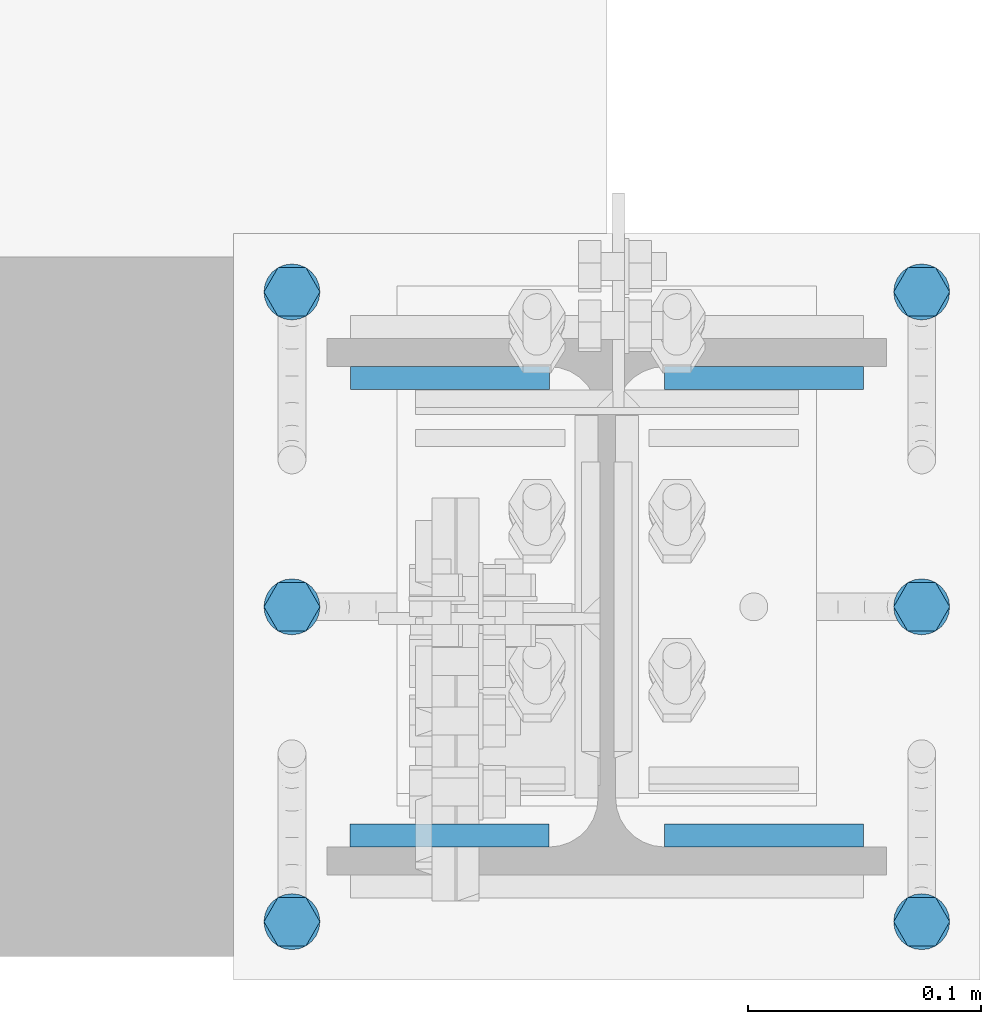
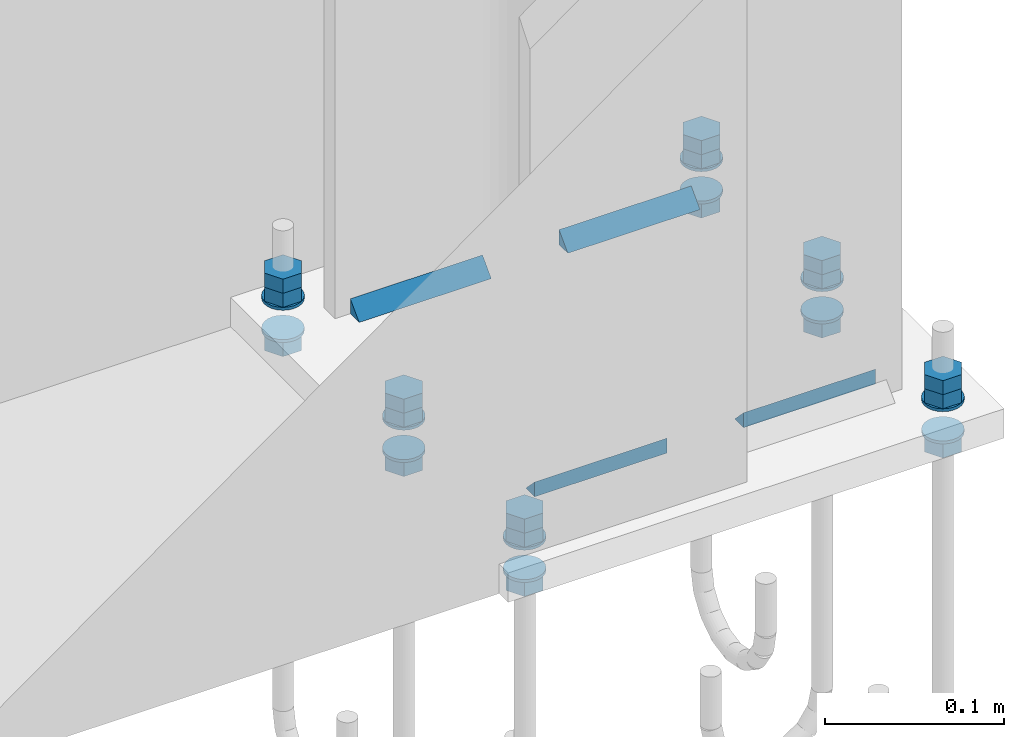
# One storey, part 59 of 72: 30 mechanical fasteners, 8 fasteners.
"""IFC4 building model written with IfcOpenShell, lengths in metres."""

from ifc_helpers import new_model, si_unit, frame, origin_with_axes, place, context, project, spatial, polyline, outline, extrude, type_object, element, save


model = new_model("IFC4")

# Units and contexts
model_context = context("Model", 3, precision=1e-05, world=origin_with_axes())
ifc_project = project(units=[si_unit("LENGTHUNIT", "METRE"), si_unit("AREAUNIT", "SQUARE_METRE"), si_unit("VOLUMEUNIT", "CUBIC_METRE"), si_unit("MASSUNIT", "GRAM", prefix="KILO"), si_unit("TIMEUNIT", "SECOND"), si_unit("PLANEANGLEUNIT", "RADIAN"), si_unit("SOLIDANGLEUNIT", "STERADIAN"), si_unit("THERMODYNAMICTEMPERATUREUNIT", "DEGREE_CELSIUS")], contexts=[model_context])

# Site, building, storey
placement_1 = place(None, origin_with_axes())
site = spatial("IfcSite", under=ifc_project, at=placement_1, Name="Italia", CompositionType="ELEMENT")
building = spatial("IfcBuilding", under=site, at=placement_1, Name="Uffici", CompositionType="ELEMENT")
storey = spatial("IfcBuildingStorey", under=building, at=placement_1, Name="Storey 0", CompositionType="ELEMENT", Elevation=0.0)

# Fasteners
fastener_type_1 = type_object("IfcFastenerType", Name="Collegamenti 0001_0101 0002_0102 0003_0103 0004_0104 0005_0105 0011_0111 0012_0112 0013_0113 0014_0114 0015_0115", PredefinedType="WELD")
placement_2 = place(placement_1, origin_with_axes())
fastener_1_placement = place(placement_2, origin_with_axes())
element("IfcFastener", 1, at=fastener_1_placement, inside=storey, type_object=fastener_type_1, Name="Collegamenti 0001_0101 0002_0102 0003_0103 0004_0104 0005_0105 0011_0111 0012_0112 0013_0113 0014_0114 0015_0115", context=model_context, shape_type="SweptSolid", body=[
    extrude(outline(polyline([(0.0, 0.0), (0.00986816, 0.0101734), (0.00986816, 0.0), (0.0, 0.0)])), frame((13.9947, 0.0931818, 0.01995), z_axis=(1.0, -8.7294403e-08, 0.0), x_axis=(8.7294403e-08, 1.0, 0.0)), (0.0, 0.0, 1.0), 0.08535),
])
fastener_type_2 = type_object("IfcFastenerType", Name="Collegamenti 0001_0101 0002_0102 0003_0103 0004_0104 0005_0105 0011_0111 0012_0112 0013_0113 0014_0114 0015_0115", PredefinedType="WELD")
fastener_2_placement = place(placement_2, origin_with_axes())
element("IfcFastener", 2, at=fastener_2_placement, inside=storey, type_object=fastener_type_2, Name="Collegamenti 0001_0101 0002_0102 0003_0103 0004_0104 0005_0105 0011_0111 0012_0112 0013_0113 0014_0114 0015_0115", context=model_context, shape_type="SweptSolid", body=[
    extrude(outline(polyline([(0.0, 0.0), (0.00986816, 0.0101734), (0.00986816, 0.0), (0.0, 0.0)])), frame((14.0801, -0.0931818, 0.01995), z_axis=(-1.0, 8.7294403e-08, 0.0), x_axis=(-8.7294403e-08, -1.0, 0.0)), (0.0, 0.0, 1.0), 0.08535),
])
fastener_type_3 = type_object("IfcFastenerType", Name="Collegamenti 0001_0101 0002_0102 0003_0103 0004_0104 0005_0105 0011_0111 0012_0112 0013_0113 0014_0114 0015_0115", PredefinedType="WELD")
fastener_3_placement = place(placement_2, origin_with_axes())
element("IfcFastener", 3, at=fastener_3_placement, inside=storey, type_object=fastener_type_3, Name="Collegamenti 0001_0101 0002_0102 0003_0103 0004_0104 0005_0105 0011_0111 0012_0112 0013_0113 0014_0114 0015_0115", context=model_context, shape_type="SweptSolid", body=[
    extrude(outline(polyline([(0.0, 0.0), (0.00986816, 0.0101734), (0.00986816, 0.0), (0.0, 0.0)])), frame((13.9453, -0.0931818, 0.01995), z_axis=(-1.0, 8.7294403e-08, 0.0), x_axis=(-8.7294403e-08, -1.0, 0.0)), (0.0, 0.0, 1.0), 0.08535),
])
fastener_type_4 = type_object("IfcFastenerType", Name="Collegamenti 0001_0101 0002_0102 0003_0103 0004_0104 0005_0105 0011_0111 0012_0112 0013_0113 0014_0114 0015_0115", PredefinedType="WELD")
fastener_4_placement = place(placement_2, origin_with_axes())
element("IfcFastener", 4, at=fastener_4_placement, inside=storey, type_object=fastener_type_4, Name="Collegamenti 0001_0101 0002_0102 0003_0103 0004_0104 0005_0105 0011_0111 0012_0112 0013_0113 0014_0114 0015_0115", context=model_context, shape_type="SweptSolid", body=[
    extrude(outline(polyline([(0.0, 0.0), (0.00986816, 0.0101734), (0.00986816, 0.0), (0.0, 0.0)])), frame((13.86, 0.0931819, 0.01995), z_axis=(1.0, -8.7294403e-08, 0.0), x_axis=(8.7294403e-08, 1.0, 0.0)), (0.0, 0.0, 1.0), 0.08535),
])
fastener_type_5 = type_object("IfcFastenerType", Name="Collegamenti 0001_0101 0002_0102 0003_0103 0004_0104 0005_0105 0011_0111 0012_0112 0013_0113 0014_0114 0015_0115", PredefinedType="WELD")
fastener_5_placement = place(placement_2, origin_with_axes())
element("IfcFastener", 5, at=fastener_5_placement, inside=storey, type_object=fastener_type_5, Name="Collegamenti 0001_0101 0002_0102 0003_0103 0004_0104 0005_0105 0011_0111 0012_0112 0013_0113 0014_0114 0015_0115", context=model_context, shape_type="SweptSolid", body=[
    extrude(outline(polyline([(0.0, 0.0), (0.00986816, 0.0101734), (0.00986816, 0.0), (0.0, 0.0)])), frame((13.9947, 0.0931818, 0.01995), z_axis=(1.0, -8.7294403e-08, 0.0), x_axis=(8.7294403e-08, 1.0, 0.0)), (0.0, 0.0, 1.0), 0.08535),
])
fastener_type_6 = type_object("IfcFastenerType", Name="Collegamenti 0001_0101 0002_0102 0003_0103 0004_0104 0005_0105 0011_0111 0012_0112 0013_0113 0014_0114 0015_0115", PredefinedType="WELD")
fastener_6_placement = place(placement_2, origin_with_axes())
element("IfcFastener", 6, at=fastener_6_placement, inside=storey, type_object=fastener_type_6, Name="Collegamenti 0001_0101 0002_0102 0003_0103 0004_0104 0005_0105 0011_0111 0012_0112 0013_0113 0014_0114 0015_0115", context=model_context, shape_type="SweptSolid", body=[
    extrude(outline(polyline([(0.0, 0.0), (0.00986816, 0.0101734), (0.00986816, 0.0), (0.0, 0.0)])), frame((14.0801, -0.0931818, 0.01995), z_axis=(-1.0, 8.7294403e-08, 0.0), x_axis=(-8.7294403e-08, -1.0, 0.0)), (0.0, 0.0, 1.0), 0.08535),
])
fastener_type_7 = type_object("IfcFastenerType", Name="Collegamenti 0001_0101 0002_0102 0003_0103 0004_0104 0005_0105 0011_0111 0012_0112 0013_0113 0014_0114 0015_0115", PredefinedType="WELD")
fastener_7_placement = place(placement_2, origin_with_axes())
element("IfcFastener", 7, at=fastener_7_placement, inside=storey, type_object=fastener_type_7, Name="Collegamenti 0001_0101 0002_0102 0003_0103 0004_0104 0005_0105 0011_0111 0012_0112 0013_0113 0014_0114 0015_0115", context=model_context, shape_type="SweptSolid", body=[
    extrude(outline(polyline([(0.0, 0.0), (0.00986816, 0.0101734), (0.00986816, 0.0), (0.0, 0.0)])), frame((13.9453, -0.0931818, 0.01995), z_axis=(-1.0, 8.7294403e-08, 0.0), x_axis=(-8.7294403e-08, -1.0, 0.0)), (0.0, 0.0, 1.0), 0.08535),
])
fastener_type_8 = type_object("IfcFastenerType", Name="Collegamenti 0001_0101 0002_0102 0003_0103 0004_0104 0005_0105 0011_0111 0012_0112 0013_0113 0014_0114 0015_0115", PredefinedType="WELD")
fastener_8_placement = place(placement_2, origin_with_axes())
element("IfcFastener", 8, at=fastener_8_placement, inside=storey, type_object=fastener_type_8, Name="Collegamenti 0001_0101 0002_0102 0003_0103 0004_0104 0005_0105 0011_0111 0012_0112 0013_0113 0014_0114 0015_0115", context=model_context, shape_type="SweptSolid", body=[
    extrude(outline(polyline([(0.0, 0.0), (0.00986816, 0.0101734), (0.00986816, 0.0), (0.0, 0.0)])), frame((13.86, 0.0931819, 0.01995), z_axis=(1.0, -8.7294403e-08, 0.0), x_axis=(8.7294403e-08, 1.0, 0.0)), (0.0, 0.0, 1.0), 0.08535),
])

# Mechanical fasteners
mechanical_fastener_type_1 = type_object("IfcMechanicalFastenerType", Name="Collegamenti 0001_0101 0002_0102 0003_0103 0004_0104 0005_0105 0011_0111 0012_0112 0013_0113 0014_0114 0015_0115", PredefinedType="BOLT")
mechanical_fastener_1_placement = place(placement_2, origin_with_axes())
element("IfcMechanicalFastener", 9, at=mechanical_fastener_1_placement, inside=storey, type_object=mechanical_fastener_type_1, Name="Collegamenti 0001_0101 0002_0102 0003_0103 0004_0104 0005_0105 0011_0111 0012_0112 0013_0113 0014_0114 0015_0115", NominalDiameter=0.0119998, context=model_context, shape_type="SweptSolid", body=[
    extrude(outline(polyline([(0.0, 0.0), (0.0, 0.0120001), (0.0103923, 0.0180006), (0.0207846, 0.0120001), (0.0207846, 0.0), (0.0103923, -0.00599957), (0.0, 0.0)])), frame((13.841, -0.145392, 0.022), z_axis=(0.0, 0.0, 1.0), x_axis=(0.0, 1.0, 0.0)), (0.0, 0.0, 1.0), 0.0096),
])
mechanical_fastener_type_2 = type_object("IfcMechanicalFastenerType", Name="Collegamenti 0001_0101 0002_0102 0003_0103 0004_0104 0005_0105 0011_0111 0012_0112 0013_0113 0014_0114 0015_0115", PredefinedType="BOLT")
mechanical_fastener_2_placement = place(placement_2, origin_with_axes())
element("IfcMechanicalFastener", 10, at=mechanical_fastener_2_placement, inside=storey, type_object=mechanical_fastener_type_2, Name="Collegamenti 0001_0101 0002_0102 0003_0103 0004_0104 0005_0105 0011_0111 0012_0112 0013_0113 0014_0114 0015_0115", NominalDiameter=0.0119998, context=model_context, shape_type="SweptSolid", body=[
    extrude(outline(polyline([(0.0, 0.0), (0.0, 0.0120001), (0.0103923, 0.0180006), (0.0207846, 0.0120001), (0.0207846, 0.0), (0.0103923, -0.00599957), (0.0, 0.0)])), frame((13.841, -0.145392, 0.0316), z_axis=(0.0, 0.0, 1.0), x_axis=(0.0, 1.0, 0.0)), (0.0, 0.0, 1.0), 0.0096),
])
mechanical_fastener_type_3 = type_object("IfcMechanicalFastenerType", Name="Collegamenti 0001_0101 0002_0102 0003_0103 0004_0104 0005_0105 0011_0111 0012_0112 0013_0113 0014_0114 0015_0115", PredefinedType="BOLT")
mechanical_fastener_3_placement = place(placement_2, origin_with_axes())
element("IfcMechanicalFastener", 11, at=mechanical_fastener_3_placement, inside=storey, type_object=mechanical_fastener_type_3, Name="Collegamenti 0001_0101 0002_0102 0003_0103 0004_0104 0005_0105 0011_0111 0012_0112 0013_0113 0014_0114 0015_0115", NominalDiameter=0.0119998, context=model_context, shape_type="SweptSolid", body=[
    extrude(outline(polyline([(0.0, 0.0), (0.0, 0.0120001), (0.0103923, 0.0180006), (0.0207846, 0.0120001), (0.0207846, 0.0), (0.0103923, -0.00599957), (0.0, 0.0)])), frame((13.841, -0.145392, -0.0116), z_axis=(0.0, 0.0, 1.0), x_axis=(0.0, 1.0, 0.0)), (0.0, 0.0, 1.0), 0.0096),
])
mechanical_fastener_type_4 = type_object("IfcMechanicalFastenerType", Name="Collegamenti 0001_0101 0002_0102 0003_0103 0004_0104 0005_0105 0011_0111 0012_0112 0013_0113 0014_0114 0015_0115", PredefinedType="BOLT")
mechanical_fastener_4_placement = place(placement_2, origin_with_axes())
element("IfcMechanicalFastener", 12, at=mechanical_fastener_4_placement, inside=storey, type_object=mechanical_fastener_type_4, Name="Collegamenti 0001_0101 0002_0102 0003_0103 0004_0104 0005_0105 0011_0111 0012_0112 0013_0113 0014_0114 0015_0115", NominalDiameter=0.024, context=model_context, shape_type="SweptSolid", body=[
    extrude(outline(polyline([(0.0, 0.0), (-0.000408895, -0.00310612), (-0.00160769, -0.00599957), (-0.00351471, -0.00848484), (-0.006, -0.0103922), (-0.00889417, -0.011591), (-0.012, -0.0120001), (-0.0151058, -0.011591), (-0.018, -0.0103922), (-0.0204853, -0.00848484), (-0.0223923, -0.00599957), (-0.0235911, -0.00310612), (-0.024, 0.0), (-0.0235911, 0.00310612), (-0.0223923, 0.00599957), (-0.0204853, 0.00848484), (-0.018, 0.0103922), (-0.0151058, 0.011591), (-0.012, 0.0120001), (-0.00889417, 0.011591), (-0.006, 0.0103922), (-0.00351471, 0.00848484), (-0.00160769, 0.00599957), (-0.000408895, 0.00310612), (0.0, 0.0)])), frame((13.835, -0.123, 0.02), z_axis=(0.0, 0.0, 1.0), x_axis=(0.0, 1.0, 0.0)), (0.0, 0.0, 1.0), 0.002),
])
mechanical_fastener_type_5 = type_object("IfcMechanicalFastenerType", Name="Collegamenti 0001_0101 0002_0102 0003_0103 0004_0104 0005_0105 0011_0111 0012_0112 0013_0113 0014_0114 0015_0115", PredefinedType="BOLT")
mechanical_fastener_5_placement = place(placement_2, origin_with_axes())
element("IfcMechanicalFastener", 13, at=mechanical_fastener_5_placement, inside=storey, type_object=mechanical_fastener_type_5, Name="Collegamenti 0001_0101 0002_0102 0003_0103 0004_0104 0005_0105 0011_0111 0012_0112 0013_0113 0014_0114 0015_0115", NominalDiameter=0.024, context=model_context, shape_type="SweptSolid", body=[
    extrude(outline(polyline([(0.0, 0.0), (-0.000408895, -0.00310612), (-0.00160769, -0.00599957), (-0.00351471, -0.00848484), (-0.006, -0.0103922), (-0.00889417, -0.011591), (-0.012, -0.0120001), (-0.0151058, -0.011591), (-0.018, -0.0103922), (-0.0204853, -0.00848484), (-0.0223923, -0.00599957), (-0.0235911, -0.00310612), (-0.024, 0.0), (-0.0235911, 0.00310612), (-0.0223923, 0.00599957), (-0.0204853, 0.00848484), (-0.018, 0.0103922), (-0.0151058, 0.011591), (-0.012, 0.0120001), (-0.00889417, 0.011591), (-0.006, 0.0103922), (-0.00351471, 0.00848484), (-0.00160769, 0.00599957), (-0.000408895, 0.00310612), (0.0, 0.0)])), frame((13.835, -0.123, -0.002), z_axis=(0.0, 0.0, 1.0), x_axis=(0.0, 1.0, 0.0)), (0.0, 0.0, 1.0), 0.002),
])
mechanical_fastener_type_6 = type_object("IfcMechanicalFastenerType", Name="Collegamenti 0001_0101 0002_0102 0003_0103 0004_0104 0005_0105 0011_0111 0012_0112 0013_0113 0014_0114 0015_0115", PredefinedType="BOLT")
mechanical_fastener_6_placement = place(placement_2, origin_with_axes())
element("IfcMechanicalFastener", 14, at=mechanical_fastener_6_placement, inside=storey, type_object=mechanical_fastener_type_6, Name="Collegamenti 0001_0101 0002_0102 0003_0103 0004_0104 0005_0105 0011_0111 0012_0112 0013_0113 0014_0114 0015_0115", NominalDiameter=0.0119998, context=model_context, shape_type="SweptSolid", body=[
    extrude(outline(polyline([(0.0, 0.0), (0.0, 0.0120001), (0.0103923, 0.0179996), (0.0207846, 0.0120001), (0.0207846, 0.0), (0.0103923, -0.00600052), (0.0, 0.0)])), frame((14.111, -0.145392, 0.022), z_axis=(0.0, 0.0, 1.0), x_axis=(0.0, 1.0, 0.0)), (0.0, 0.0, 1.0), 0.0096),
])
mechanical_fastener_type_7 = type_object("IfcMechanicalFastenerType", Name="Collegamenti 0001_0101 0002_0102 0003_0103 0004_0104 0005_0105 0011_0111 0012_0112 0013_0113 0014_0114 0015_0115", PredefinedType="BOLT")
mechanical_fastener_7_placement = place(placement_2, origin_with_axes())
element("IfcMechanicalFastener", 15, at=mechanical_fastener_7_placement, inside=storey, type_object=mechanical_fastener_type_7, Name="Collegamenti 0001_0101 0002_0102 0003_0103 0004_0104 0005_0105 0011_0111 0012_0112 0013_0113 0014_0114 0015_0115", NominalDiameter=0.0119998, context=model_context, shape_type="SweptSolid", body=[
    extrude(outline(polyline([(0.0, 0.0), (0.0, 0.0120001), (0.0103923, 0.0179996), (0.0207846, 0.0120001), (0.0207846, 0.0), (0.0103923, -0.00600052), (0.0, 0.0)])), frame((14.111, -0.145392, 0.0316), z_axis=(0.0, 0.0, 1.0), x_axis=(0.0, 1.0, 0.0)), (0.0, 0.0, 1.0), 0.0096),
])
mechanical_fastener_type_8 = type_object("IfcMechanicalFastenerType", Name="Collegamenti 0001_0101 0002_0102 0003_0103 0004_0104 0005_0105 0011_0111 0012_0112 0013_0113 0014_0114 0015_0115", PredefinedType="BOLT")
mechanical_fastener_8_placement = place(placement_2, origin_with_axes())
element("IfcMechanicalFastener", 16, at=mechanical_fastener_8_placement, inside=storey, type_object=mechanical_fastener_type_8, Name="Collegamenti 0001_0101 0002_0102 0003_0103 0004_0104 0005_0105 0011_0111 0012_0112 0013_0113 0014_0114 0015_0115", NominalDiameter=0.0119998, context=model_context, shape_type="SweptSolid", body=[
    extrude(outline(polyline([(0.0, 0.0), (0.0, 0.0120001), (0.0103923, 0.0179996), (0.0207846, 0.0120001), (0.0207846, 0.0), (0.0103923, -0.00600052), (0.0, 0.0)])), frame((14.111, -0.145392, -0.0116), z_axis=(0.0, 0.0, 1.0), x_axis=(0.0, 1.0, 0.0)), (0.0, 0.0, 1.0), 0.0096),
])
mechanical_fastener_type_9 = type_object("IfcMechanicalFastenerType", Name="Collegamenti 0001_0101 0002_0102 0003_0103 0004_0104 0005_0105 0011_0111 0012_0112 0013_0113 0014_0114 0015_0115", PredefinedType="BOLT")
mechanical_fastener_9_placement = place(placement_2, origin_with_axes())
element("IfcMechanicalFastener", 17, at=mechanical_fastener_9_placement, inside=storey, type_object=mechanical_fastener_type_9, Name="Collegamenti 0001_0101 0002_0102 0003_0103 0004_0104 0005_0105 0011_0111 0012_0112 0013_0113 0014_0114 0015_0115", NominalDiameter=0.024, context=model_context, shape_type="SweptSolid", body=[
    extrude(outline(polyline([(0.0, 0.0), (-0.000408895, -0.00310612), (-0.00160769, -0.00599957), (-0.00351471, -0.00848484), (-0.006, -0.0103922), (-0.00889417, -0.011591), (-0.012, -0.0120001), (-0.0151058, -0.011591), (-0.018, -0.0103922), (-0.0204853, -0.00848484), (-0.0223923, -0.00599957), (-0.0235911, -0.00310612), (-0.024, 0.0), (-0.0235911, 0.00310612), (-0.0223923, 0.00599957), (-0.0204853, 0.00848484), (-0.018, 0.0103922), (-0.0151058, 0.011591), (-0.012, 0.0120001), (-0.00889417, 0.011591), (-0.006, 0.0103922), (-0.00351471, 0.00848484), (-0.00160769, 0.00599957), (-0.000408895, 0.00310612), (0.0, 0.0)])), frame((14.105, -0.123, 0.02), z_axis=(0.0, 0.0, 1.0), x_axis=(0.0, 1.0, 0.0)), (0.0, 0.0, 1.0), 0.002),
])
mechanical_fastener_type_10 = type_object("IfcMechanicalFastenerType", Name="Collegamenti 0001_0101 0002_0102 0003_0103 0004_0104 0005_0105 0011_0111 0012_0112 0013_0113 0014_0114 0015_0115", PredefinedType="BOLT")
mechanical_fastener_10_placement = place(placement_2, origin_with_axes())
element("IfcMechanicalFastener", 18, at=mechanical_fastener_10_placement, inside=storey, type_object=mechanical_fastener_type_10, Name="Collegamenti 0001_0101 0002_0102 0003_0103 0004_0104 0005_0105 0011_0111 0012_0112 0013_0113 0014_0114 0015_0115", NominalDiameter=0.024, context=model_context, shape_type="SweptSolid", body=[
    extrude(outline(polyline([(0.0, 0.0), (-0.000408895, -0.00310612), (-0.00160769, -0.00599957), (-0.00351471, -0.00848484), (-0.006, -0.0103922), (-0.00889417, -0.011591), (-0.012, -0.0120001), (-0.0151058, -0.011591), (-0.018, -0.0103922), (-0.0204853, -0.00848484), (-0.0223923, -0.00599957), (-0.0235911, -0.00310612), (-0.024, 0.0), (-0.0235911, 0.00310612), (-0.0223923, 0.00599957), (-0.0204853, 0.00848484), (-0.018, 0.0103922), (-0.0151058, 0.011591), (-0.012, 0.0120001), (-0.00889417, 0.011591), (-0.006, 0.0103922), (-0.00351471, 0.00848484), (-0.00160769, 0.00599957), (-0.000408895, 0.00310612), (0.0, 0.0)])), frame((14.105, -0.123, -0.002), z_axis=(0.0, 0.0, 1.0), x_axis=(0.0, 1.0, 0.0)), (0.0, 0.0, 1.0), 0.002),
])
mechanical_fastener_type_11 = type_object("IfcMechanicalFastenerType", Name="Collegamenti 0001_0101 0002_0102 0003_0103 0004_0104 0005_0105 0011_0111 0012_0112 0013_0113 0014_0114 0015_0115", PredefinedType="BOLT")
mechanical_fastener_11_placement = place(placement_2, origin_with_axes())
element("IfcMechanicalFastener", 19, at=mechanical_fastener_11_placement, inside=storey, type_object=mechanical_fastener_type_11, Name="Collegamenti 0001_0101 0002_0102 0003_0103 0004_0104 0005_0105 0011_0111 0012_0112 0013_0113 0014_0114 0015_0115", NominalDiameter=0.0119998, context=model_context, shape_type="SweptSolid", body=[
    extrude(outline(polyline([(0.0, 0.0), (0.0, 0.0120001), (0.0103923, 0.0180006), (0.0207846, 0.0120001), (0.0207846, 0.0), (0.0103923, -0.00599957), (0.0, 0.0)])), frame((13.841, -0.0103923, 0.022), z_axis=(0.0, 0.0, 1.0), x_axis=(0.0, 1.0, 0.0)), (0.0, 0.0, 1.0), 0.0096),
])
mechanical_fastener_type_12 = type_object("IfcMechanicalFastenerType", Name="Collegamenti 0001_0101 0002_0102 0003_0103 0004_0104 0005_0105 0011_0111 0012_0112 0013_0113 0014_0114 0015_0115", PredefinedType="BOLT")
mechanical_fastener_12_placement = place(placement_2, origin_with_axes())
element("IfcMechanicalFastener", 20, at=mechanical_fastener_12_placement, inside=storey, type_object=mechanical_fastener_type_12, Name="Collegamenti 0001_0101 0002_0102 0003_0103 0004_0104 0005_0105 0011_0111 0012_0112 0013_0113 0014_0114 0015_0115", NominalDiameter=0.0119998, context=model_context, shape_type="SweptSolid", body=[
    extrude(outline(polyline([(0.0, 0.0), (0.0, 0.0120001), (0.0103923, 0.0180006), (0.0207846, 0.0120001), (0.0207846, 0.0), (0.0103923, -0.00599957), (0.0, 0.0)])), frame((13.841, -0.0103923, 0.0316), z_axis=(0.0, 0.0, 1.0), x_axis=(0.0, 1.0, 0.0)), (0.0, 0.0, 1.0), 0.0096),
])
mechanical_fastener_type_13 = type_object("IfcMechanicalFastenerType", Name="Collegamenti 0001_0101 0002_0102 0003_0103 0004_0104 0005_0105 0011_0111 0012_0112 0013_0113 0014_0114 0015_0115", PredefinedType="BOLT")
mechanical_fastener_13_placement = place(placement_2, origin_with_axes())
element("IfcMechanicalFastener", 21, at=mechanical_fastener_13_placement, inside=storey, type_object=mechanical_fastener_type_13, Name="Collegamenti 0001_0101 0002_0102 0003_0103 0004_0104 0005_0105 0011_0111 0012_0112 0013_0113 0014_0114 0015_0115", NominalDiameter=0.0119998, context=model_context, shape_type="SweptSolid", body=[
    extrude(outline(polyline([(0.0, 0.0), (0.0, 0.0120001), (0.0103923, 0.0180006), (0.0207846, 0.0120001), (0.0207846, 0.0), (0.0103923, -0.00599957), (0.0, 0.0)])), frame((13.841, -0.0103923, -0.0116), z_axis=(0.0, 0.0, 1.0), x_axis=(0.0, 1.0, 0.0)), (0.0, 0.0, 1.0), 0.0096),
])
mechanical_fastener_type_14 = type_object("IfcMechanicalFastenerType", Name="Collegamenti 0001_0101 0002_0102 0003_0103 0004_0104 0005_0105 0011_0111 0012_0112 0013_0113 0014_0114 0015_0115", PredefinedType="BOLT")
mechanical_fastener_14_placement = place(placement_2, origin_with_axes())
element("IfcMechanicalFastener", 22, at=mechanical_fastener_14_placement, inside=storey, type_object=mechanical_fastener_type_14, Name="Collegamenti 0001_0101 0002_0102 0003_0103 0004_0104 0005_0105 0011_0111 0012_0112 0013_0113 0014_0114 0015_0115", NominalDiameter=0.024, context=model_context, shape_type="SweptSolid", body=[
    extrude(outline(polyline([(0.0, 0.0), (-0.00040889, -0.00310612), (-0.0016077, -0.00599957), (-0.00351472, -0.00848484), (-0.006, -0.0103922), (-0.00889417, -0.011591), (-0.012, -0.0120001), (-0.0151058, -0.011591), (-0.018, -0.0103922), (-0.0204853, -0.00848484), (-0.0223923, -0.00599957), (-0.0235911, -0.00310612), (-0.024, 0.0), (-0.0235911, 0.00310612), (-0.0223923, 0.00599957), (-0.0204853, 0.00848484), (-0.018, 0.0103922), (-0.0151058, 0.011591), (-0.012, 0.0120001), (-0.00889417, 0.011591), (-0.006, 0.0103922), (-0.00351472, 0.00848484), (-0.00160769, 0.00599957), (-0.00040889, 0.00310612), (0.0, 0.0)])), frame((13.835, 0.012, 0.02), z_axis=(0.0, 0.0, 1.0), x_axis=(0.0, 1.0, 0.0)), (0.0, 0.0, 1.0), 0.002),
])
mechanical_fastener_type_15 = type_object("IfcMechanicalFastenerType", Name="Collegamenti 0001_0101 0002_0102 0003_0103 0004_0104 0005_0105 0011_0111 0012_0112 0013_0113 0014_0114 0015_0115", PredefinedType="BOLT")
mechanical_fastener_15_placement = place(placement_2, origin_with_axes())
element("IfcMechanicalFastener", 23, at=mechanical_fastener_15_placement, inside=storey, type_object=mechanical_fastener_type_15, Name="Collegamenti 0001_0101 0002_0102 0003_0103 0004_0104 0005_0105 0011_0111 0012_0112 0013_0113 0014_0114 0015_0115", NominalDiameter=0.024, context=model_context, shape_type="SweptSolid", body=[
    extrude(outline(polyline([(0.0, 0.0), (-0.00040889, -0.00310612), (-0.0016077, -0.00599957), (-0.00351472, -0.00848484), (-0.006, -0.0103922), (-0.00889417, -0.011591), (-0.012, -0.0120001), (-0.0151058, -0.011591), (-0.018, -0.0103922), (-0.0204853, -0.00848484), (-0.0223923, -0.00599957), (-0.0235911, -0.00310612), (-0.024, 0.0), (-0.0235911, 0.00310612), (-0.0223923, 0.00599957), (-0.0204853, 0.00848484), (-0.018, 0.0103922), (-0.0151058, 0.011591), (-0.012, 0.0120001), (-0.00889417, 0.011591), (-0.006, 0.0103922), (-0.00351472, 0.00848484), (-0.00160769, 0.00599957), (-0.00040889, 0.00310612), (0.0, 0.0)])), frame((13.835, 0.012, -0.002), z_axis=(0.0, 0.0, 1.0), x_axis=(0.0, 1.0, 0.0)), (0.0, 0.0, 1.0), 0.002),
])
mechanical_fastener_type_16 = type_object("IfcMechanicalFastenerType", Name="Collegamenti 0001_0101 0002_0102 0003_0103 0004_0104 0005_0105 0011_0111 0012_0112 0013_0113 0014_0114 0015_0115", PredefinedType="BOLT")
mechanical_fastener_16_placement = place(placement_2, origin_with_axes())
element("IfcMechanicalFastener", 24, at=mechanical_fastener_16_placement, inside=storey, type_object=mechanical_fastener_type_16, Name="Collegamenti 0001_0101 0002_0102 0003_0103 0004_0104 0005_0105 0011_0111 0012_0112 0013_0113 0014_0114 0015_0115", NominalDiameter=0.0119998, context=model_context, shape_type="SweptSolid", body=[
    extrude(outline(polyline([(0.0, 0.0), (0.0, 0.0120001), (0.0103923, 0.0179996), (0.0207846, 0.0120001), (0.0207846, 0.0), (0.0103923, -0.00600052), (0.0, 0.0)])), frame((14.111, -0.0103923, 0.022), z_axis=(0.0, 0.0, 1.0), x_axis=(0.0, 1.0, 0.0)), (0.0, 0.0, 1.0), 0.0096),
])
mechanical_fastener_type_17 = type_object("IfcMechanicalFastenerType", Name="Collegamenti 0001_0101 0002_0102 0003_0103 0004_0104 0005_0105 0011_0111 0012_0112 0013_0113 0014_0114 0015_0115", PredefinedType="BOLT")
mechanical_fastener_17_placement = place(placement_2, origin_with_axes())
element("IfcMechanicalFastener", 25, at=mechanical_fastener_17_placement, inside=storey, type_object=mechanical_fastener_type_17, Name="Collegamenti 0001_0101 0002_0102 0003_0103 0004_0104 0005_0105 0011_0111 0012_0112 0013_0113 0014_0114 0015_0115", NominalDiameter=0.0119998, context=model_context, shape_type="SweptSolid", body=[
    extrude(outline(polyline([(0.0, 0.0), (0.0, 0.0120001), (0.0103923, 0.0179996), (0.0207846, 0.0120001), (0.0207846, 0.0), (0.0103923, -0.00600052), (0.0, 0.0)])), frame((14.111, -0.0103923, 0.0316), z_axis=(0.0, 0.0, 1.0), x_axis=(0.0, 1.0, 0.0)), (0.0, 0.0, 1.0), 0.0096),
])
mechanical_fastener_type_18 = type_object("IfcMechanicalFastenerType", Name="Collegamenti 0001_0101 0002_0102 0003_0103 0004_0104 0005_0105 0011_0111 0012_0112 0013_0113 0014_0114 0015_0115", PredefinedType="BOLT")
mechanical_fastener_18_placement = place(placement_2, origin_with_axes())
element("IfcMechanicalFastener", 26, at=mechanical_fastener_18_placement, inside=storey, type_object=mechanical_fastener_type_18, Name="Collegamenti 0001_0101 0002_0102 0003_0103 0004_0104 0005_0105 0011_0111 0012_0112 0013_0113 0014_0114 0015_0115", NominalDiameter=0.0119998, context=model_context, shape_type="SweptSolid", body=[
    extrude(outline(polyline([(0.0, 0.0), (0.0, 0.0120001), (0.0103923, 0.0179996), (0.0207846, 0.0120001), (0.0207846, 0.0), (0.0103923, -0.00600052), (0.0, 0.0)])), frame((14.111, -0.0103923, -0.0116), z_axis=(0.0, 0.0, 1.0), x_axis=(0.0, 1.0, 0.0)), (0.0, 0.0, 1.0), 0.0096),
])
mechanical_fastener_type_19 = type_object("IfcMechanicalFastenerType", Name="Collegamenti 0001_0101 0002_0102 0003_0103 0004_0104 0005_0105 0011_0111 0012_0112 0013_0113 0014_0114 0015_0115", PredefinedType="BOLT")
mechanical_fastener_19_placement = place(placement_2, origin_with_axes())
element("IfcMechanicalFastener", 27, at=mechanical_fastener_19_placement, inside=storey, type_object=mechanical_fastener_type_19, Name="Collegamenti 0001_0101 0002_0102 0003_0103 0004_0104 0005_0105 0011_0111 0012_0112 0013_0113 0014_0114 0015_0115", NominalDiameter=0.024, context=model_context, shape_type="SweptSolid", body=[
    extrude(outline(polyline([(0.0, 0.0), (-0.00040889, -0.00310612), (-0.0016077, -0.00599957), (-0.00351472, -0.00848484), (-0.006, -0.0103922), (-0.00889417, -0.011591), (-0.012, -0.0120001), (-0.0151058, -0.011591), (-0.018, -0.0103922), (-0.0204853, -0.00848484), (-0.0223923, -0.00599957), (-0.0235911, -0.00310612), (-0.024, 0.0), (-0.0235911, 0.00310612), (-0.0223923, 0.00599957), (-0.0204853, 0.00848484), (-0.018, 0.0103922), (-0.0151058, 0.011591), (-0.012, 0.0120001), (-0.00889417, 0.011591), (-0.006, 0.0103922), (-0.00351472, 0.00848484), (-0.00160769, 0.00599957), (-0.00040889, 0.00310612), (0.0, 0.0)])), frame((14.105, 0.012, 0.02), z_axis=(0.0, 0.0, 1.0), x_axis=(0.0, 1.0, 0.0)), (0.0, 0.0, 1.0), 0.002),
])
mechanical_fastener_type_20 = type_object("IfcMechanicalFastenerType", Name="Collegamenti 0001_0101 0002_0102 0003_0103 0004_0104 0005_0105 0011_0111 0012_0112 0013_0113 0014_0114 0015_0115", PredefinedType="BOLT")
mechanical_fastener_20_placement = place(placement_2, origin_with_axes())
element("IfcMechanicalFastener", 28, at=mechanical_fastener_20_placement, inside=storey, type_object=mechanical_fastener_type_20, Name="Collegamenti 0001_0101 0002_0102 0003_0103 0004_0104 0005_0105 0011_0111 0012_0112 0013_0113 0014_0114 0015_0115", NominalDiameter=0.024, context=model_context, shape_type="SweptSolid", body=[
    extrude(outline(polyline([(0.0, 0.0), (-0.00040889, -0.00310612), (-0.0016077, -0.00599957), (-0.00351472, -0.00848484), (-0.006, -0.0103922), (-0.00889417, -0.011591), (-0.012, -0.0120001), (-0.0151058, -0.011591), (-0.018, -0.0103922), (-0.0204853, -0.00848484), (-0.0223923, -0.00599957), (-0.0235911, -0.00310612), (-0.024, 0.0), (-0.0235911, 0.00310612), (-0.0223923, 0.00599957), (-0.0204853, 0.00848484), (-0.018, 0.0103922), (-0.0151058, 0.011591), (-0.012, 0.0120001), (-0.00889417, 0.011591), (-0.006, 0.0103922), (-0.00351472, 0.00848484), (-0.00160769, 0.00599957), (-0.00040889, 0.00310612), (0.0, 0.0)])), frame((14.105, 0.012, -0.002), z_axis=(0.0, 0.0, 1.0), x_axis=(0.0, 1.0, 0.0)), (0.0, 0.0, 1.0), 0.002),
])
mechanical_fastener_type_21 = type_object("IfcMechanicalFastenerType", Name="Collegamenti 0001_0101 0002_0102 0003_0103 0004_0104 0005_0105 0011_0111 0012_0112 0013_0113 0014_0114 0015_0115", PredefinedType="BOLT")
mechanical_fastener_21_placement = place(placement_2, origin_with_axes())
element("IfcMechanicalFastener", 29, at=mechanical_fastener_21_placement, inside=storey, type_object=mechanical_fastener_type_21, Name="Collegamenti 0001_0101 0002_0102 0003_0103 0004_0104 0005_0105 0011_0111 0012_0112 0013_0113 0014_0114 0015_0115", NominalDiameter=0.0119998, context=model_context, shape_type="SweptSolid", body=[
    extrude(outline(polyline([(0.0, 0.0), (0.0, 0.0120001), (0.0103923, 0.0180006), (0.0207846, 0.0120001), (0.0207846, 0.0), (0.0103923, -0.00599957), (0.0, 0.0)])), frame((13.841, 0.124608, 0.022), z_axis=(0.0, 0.0, 1.0), x_axis=(0.0, 1.0, 0.0)), (0.0, 0.0, 1.0), 0.0096),
])
mechanical_fastener_type_22 = type_object("IfcMechanicalFastenerType", Name="Collegamenti 0001_0101 0002_0102 0003_0103 0004_0104 0005_0105 0011_0111 0012_0112 0013_0113 0014_0114 0015_0115", PredefinedType="BOLT")
mechanical_fastener_22_placement = place(placement_2, origin_with_axes())
element("IfcMechanicalFastener", 30, at=mechanical_fastener_22_placement, inside=storey, type_object=mechanical_fastener_type_22, Name="Collegamenti 0001_0101 0002_0102 0003_0103 0004_0104 0005_0105 0011_0111 0012_0112 0013_0113 0014_0114 0015_0115", NominalDiameter=0.0119998, context=model_context, shape_type="SweptSolid", body=[
    extrude(outline(polyline([(0.0, 0.0), (0.0, 0.0120001), (0.0103923, 0.0180006), (0.0207846, 0.0120001), (0.0207846, 0.0), (0.0103923, -0.00599957), (0.0, 0.0)])), frame((13.841, 0.124608, 0.0316), z_axis=(0.0, 0.0, 1.0), x_axis=(0.0, 1.0, 0.0)), (0.0, 0.0, 1.0), 0.0096),
])
mechanical_fastener_type_23 = type_object("IfcMechanicalFastenerType", Name="Collegamenti 0001_0101 0002_0102 0003_0103 0004_0104 0005_0105 0011_0111 0012_0112 0013_0113 0014_0114 0015_0115", PredefinedType="BOLT")
mechanical_fastener_23_placement = place(placement_2, origin_with_axes())
element("IfcMechanicalFastener", 31, at=mechanical_fastener_23_placement, inside=storey, type_object=mechanical_fastener_type_23, Name="Collegamenti 0001_0101 0002_0102 0003_0103 0004_0104 0005_0105 0011_0111 0012_0112 0013_0113 0014_0114 0015_0115", NominalDiameter=0.0119998, context=model_context, shape_type="SweptSolid", body=[
    extrude(outline(polyline([(0.0, 0.0), (0.0, 0.0120001), (0.0103923, 0.0180006), (0.0207846, 0.0120001), (0.0207846, 0.0), (0.0103923, -0.00599957), (0.0, 0.0)])), frame((13.841, 0.124608, -0.0116), z_axis=(0.0, 0.0, 1.0), x_axis=(0.0, 1.0, 0.0)), (0.0, 0.0, 1.0), 0.0096),
])
mechanical_fastener_type_24 = type_object("IfcMechanicalFastenerType", Name="Collegamenti 0001_0101 0002_0102 0003_0103 0004_0104 0005_0105 0011_0111 0012_0112 0013_0113 0014_0114 0015_0115", PredefinedType="BOLT")
mechanical_fastener_24_placement = place(placement_2, origin_with_axes())
element("IfcMechanicalFastener", 32, at=mechanical_fastener_24_placement, inside=storey, type_object=mechanical_fastener_type_24, Name="Collegamenti 0001_0101 0002_0102 0003_0103 0004_0104 0005_0105 0011_0111 0012_0112 0013_0113 0014_0114 0015_0115", NominalDiameter=0.024, context=model_context, shape_type="SweptSolid", body=[
    extrude(outline(polyline([(0.0, 0.0), (-0.000408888, -0.00310612), (-0.00160769, -0.00599957), (-0.00351471, -0.00848484), (-0.006, -0.0103922), (-0.00889416, -0.011591), (-0.012, -0.0120001), (-0.0151058, -0.011591), (-0.018, -0.0103922), (-0.0204853, -0.00848484), (-0.0223923, -0.00599957), (-0.0235911, -0.00310612), (-0.024, 0.0), (-0.0235911, 0.00310612), (-0.0223923, 0.00599957), (-0.0204853, 0.00848484), (-0.018, 0.0103922), (-0.0151058, 0.011591), (-0.012, 0.0120001), (-0.00889416, 0.011591), (-0.006, 0.0103922), (-0.00351471, 0.00848484), (-0.00160769, 0.00599957), (-0.000408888, 0.00310612), (0.0, 0.0)])), frame((13.835, 0.147, 0.02), z_axis=(0.0, 0.0, 1.0), x_axis=(0.0, 1.0, 0.0)), (0.0, 0.0, 1.0), 0.002),
])
mechanical_fastener_type_25 = type_object("IfcMechanicalFastenerType", Name="Collegamenti 0001_0101 0002_0102 0003_0103 0004_0104 0005_0105 0011_0111 0012_0112 0013_0113 0014_0114 0015_0115", PredefinedType="BOLT")
mechanical_fastener_25_placement = place(placement_2, origin_with_axes())
element("IfcMechanicalFastener", 33, at=mechanical_fastener_25_placement, inside=storey, type_object=mechanical_fastener_type_25, Name="Collegamenti 0001_0101 0002_0102 0003_0103 0004_0104 0005_0105 0011_0111 0012_0112 0013_0113 0014_0114 0015_0115", NominalDiameter=0.024, context=model_context, shape_type="SweptSolid", body=[
    extrude(outline(polyline([(0.0, 0.0), (-0.000408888, -0.00310612), (-0.00160769, -0.00599957), (-0.00351471, -0.00848484), (-0.006, -0.0103922), (-0.00889416, -0.011591), (-0.012, -0.0120001), (-0.0151058, -0.011591), (-0.018, -0.0103922), (-0.0204853, -0.00848484), (-0.0223923, -0.00599957), (-0.0235911, -0.00310612), (-0.024, 0.0), (-0.0235911, 0.00310612), (-0.0223923, 0.00599957), (-0.0204853, 0.00848484), (-0.018, 0.0103922), (-0.0151058, 0.011591), (-0.012, 0.0120001), (-0.00889416, 0.011591), (-0.006, 0.0103922), (-0.00351471, 0.00848484), (-0.00160769, 0.00599957), (-0.000408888, 0.00310612), (0.0, 0.0)])), frame((13.835, 0.147, -0.002), z_axis=(0.0, 0.0, 1.0), x_axis=(0.0, 1.0, 0.0)), (0.0, 0.0, 1.0), 0.002),
])
mechanical_fastener_type_26 = type_object("IfcMechanicalFastenerType", Name="Collegamenti 0001_0101 0002_0102 0003_0103 0004_0104 0005_0105 0011_0111 0012_0112 0013_0113 0014_0114 0015_0115", PredefinedType="BOLT")
mechanical_fastener_26_placement = place(placement_2, origin_with_axes())
element("IfcMechanicalFastener", 34, at=mechanical_fastener_26_placement, inside=storey, type_object=mechanical_fastener_type_26, Name="Collegamenti 0001_0101 0002_0102 0003_0103 0004_0104 0005_0105 0011_0111 0012_0112 0013_0113 0014_0114 0015_0115", NominalDiameter=0.0119998, context=model_context, shape_type="SweptSolid", body=[
    extrude(outline(polyline([(0.0, 0.0), (0.0, 0.0120001), (0.0103923, 0.0179996), (0.0207846, 0.0120001), (0.0207846, 0.0), (0.0103923, -0.00600052), (0.0, 0.0)])), frame((14.111, 0.124608, 0.022), z_axis=(0.0, 0.0, 1.0), x_axis=(0.0, 1.0, 0.0)), (0.0, 0.0, 1.0), 0.0096),
])
mechanical_fastener_type_27 = type_object("IfcMechanicalFastenerType", Name="Collegamenti 0001_0101 0002_0102 0003_0103 0004_0104 0005_0105 0011_0111 0012_0112 0013_0113 0014_0114 0015_0115", PredefinedType="BOLT")
mechanical_fastener_27_placement = place(placement_2, origin_with_axes())
element("IfcMechanicalFastener", 35, at=mechanical_fastener_27_placement, inside=storey, type_object=mechanical_fastener_type_27, Name="Collegamenti 0001_0101 0002_0102 0003_0103 0004_0104 0005_0105 0011_0111 0012_0112 0013_0113 0014_0114 0015_0115", NominalDiameter=0.0119998, context=model_context, shape_type="SweptSolid", body=[
    extrude(outline(polyline([(0.0, 0.0), (0.0, 0.0120001), (0.0103923, 0.0179996), (0.0207846, 0.0120001), (0.0207846, 0.0), (0.0103923, -0.00600052), (0.0, 0.0)])), frame((14.111, 0.124608, 0.0316), z_axis=(0.0, 0.0, 1.0), x_axis=(0.0, 1.0, 0.0)), (0.0, 0.0, 1.0), 0.0096),
])
mechanical_fastener_type_28 = type_object("IfcMechanicalFastenerType", Name="Collegamenti 0001_0101 0002_0102 0003_0103 0004_0104 0005_0105 0011_0111 0012_0112 0013_0113 0014_0114 0015_0115", PredefinedType="BOLT")
mechanical_fastener_28_placement = place(placement_2, origin_with_axes())
element("IfcMechanicalFastener", 36, at=mechanical_fastener_28_placement, inside=storey, type_object=mechanical_fastener_type_28, Name="Collegamenti 0001_0101 0002_0102 0003_0103 0004_0104 0005_0105 0011_0111 0012_0112 0013_0113 0014_0114 0015_0115", NominalDiameter=0.0119998, context=model_context, shape_type="SweptSolid", body=[
    extrude(outline(polyline([(0.0, 0.0), (0.0, 0.0120001), (0.0103923, 0.0179996), (0.0207846, 0.0120001), (0.0207846, 0.0), (0.0103923, -0.00600052), (0.0, 0.0)])), frame((14.111, 0.124608, -0.0116), z_axis=(0.0, 0.0, 1.0), x_axis=(0.0, 1.0, 0.0)), (0.0, 0.0, 1.0), 0.0096),
])
mechanical_fastener_type_29 = type_object("IfcMechanicalFastenerType", Name="Collegamenti 0001_0101 0002_0102 0003_0103 0004_0104 0005_0105 0011_0111 0012_0112 0013_0113 0014_0114 0015_0115", PredefinedType="BOLT")
mechanical_fastener_29_placement = place(placement_2, origin_with_axes())
element("IfcMechanicalFastener", 37, at=mechanical_fastener_29_placement, inside=storey, type_object=mechanical_fastener_type_29, Name="Collegamenti 0001_0101 0002_0102 0003_0103 0004_0104 0005_0105 0011_0111 0012_0112 0013_0113 0014_0114 0015_0115", NominalDiameter=0.024, context=model_context, shape_type="SweptSolid", body=[
    extrude(outline(polyline([(0.0, 0.0), (-0.000408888, -0.00310612), (-0.00160769, -0.00599957), (-0.00351471, -0.00848484), (-0.006, -0.0103922), (-0.00889416, -0.011591), (-0.012, -0.0120001), (-0.0151058, -0.011591), (-0.018, -0.0103922), (-0.0204853, -0.00848484), (-0.0223923, -0.00599957), (-0.0235911, -0.00310612), (-0.024, 0.0), (-0.0235911, 0.00310612), (-0.0223923, 0.00599957), (-0.0204853, 0.00848484), (-0.018, 0.0103922), (-0.0151058, 0.011591), (-0.012, 0.0120001), (-0.00889416, 0.011591), (-0.006, 0.0103922), (-0.00351471, 0.00848484), (-0.00160769, 0.00599957), (-0.000408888, 0.00310612), (0.0, 0.0)])), frame((14.105, 0.147, 0.02), z_axis=(0.0, 0.0, 1.0), x_axis=(0.0, 1.0, 0.0)), (0.0, 0.0, 1.0), 0.002),
])
mechanical_fastener_type_30 = type_object("IfcMechanicalFastenerType", Name="Collegamenti 0001_0101 0002_0102 0003_0103 0004_0104 0005_0105 0011_0111 0012_0112 0013_0113 0014_0114 0015_0115", PredefinedType="BOLT")
mechanical_fastener_30_placement = place(placement_2, origin_with_axes())
element("IfcMechanicalFastener", 38, at=mechanical_fastener_30_placement, inside=storey, type_object=mechanical_fastener_type_30, Name="Collegamenti 0001_0101 0002_0102 0003_0103 0004_0104 0005_0105 0011_0111 0012_0112 0013_0113 0014_0114 0015_0115", NominalDiameter=0.024, context=model_context, shape_type="SweptSolid", body=[
    extrude(outline(polyline([(0.0, 0.0), (-0.000408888, -0.00310612), (-0.00160769, -0.00599957), (-0.00351471, -0.00848484), (-0.006, -0.0103922), (-0.00889416, -0.011591), (-0.012, -0.0120001), (-0.0151058, -0.011591), (-0.018, -0.0103922), (-0.0204853, -0.00848484), (-0.0223923, -0.00599957), (-0.0235911, -0.00310612), (-0.024, 0.0), (-0.0235911, 0.00310612), (-0.0223923, 0.00599957), (-0.0204853, 0.00848484), (-0.018, 0.0103922), (-0.0151058, 0.011591), (-0.012, 0.0120001), (-0.00889416, 0.011591), (-0.006, 0.0103922), (-0.00351471, 0.00848484), (-0.00160769, 0.00599957), (-0.000408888, 0.00310612), (0.0, 0.0)])), frame((14.105, 0.147, -0.002), z_axis=(0.0, 0.0, 1.0), x_axis=(0.0, 1.0, 0.0)), (0.0, 0.0, 1.0), 0.002),
])

save(model, "model.ifc")
